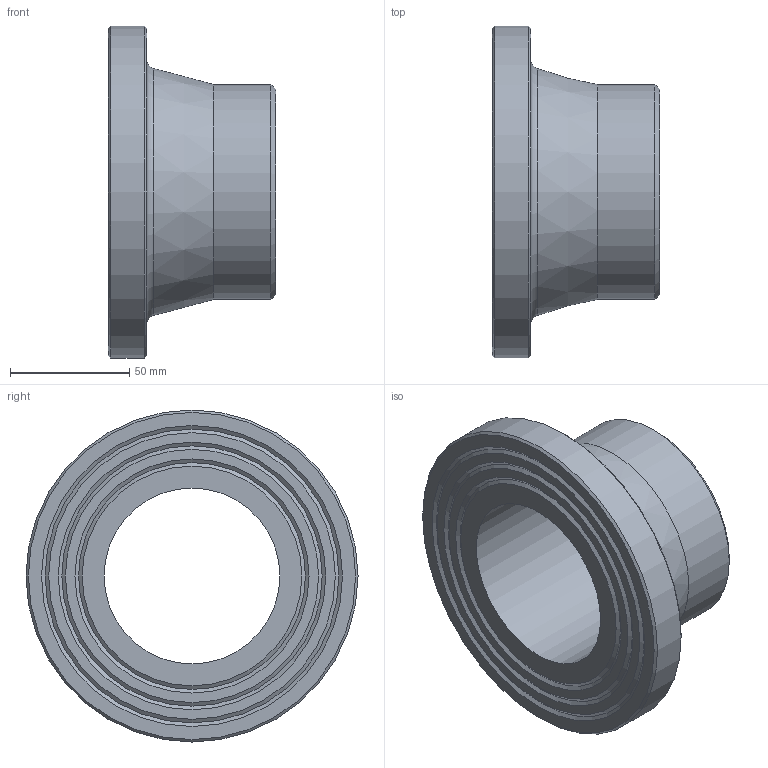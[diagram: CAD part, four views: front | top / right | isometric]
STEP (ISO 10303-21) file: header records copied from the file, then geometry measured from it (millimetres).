
FILE_DESCRIPTION(/* description */ ('Unknown'),/* implementation_level */ '2;1');
FILE_NAME(/* name */ 'CCP090C',/* time_stamp */ '2022-04-04T14:41:40+02:00',/* author */ ('Unknown'),/* organization */ ('Unknown'),/* preprocessor_version */ 'ST-DEVELOPER v18.1',/* originating_system */ 'Solid Edge',/* authorisation */ 'Unknown');
FILE_SCHEMA (('AUTOMOTIVE_DESIGN {1 0 10303 214 3 1 1}'));
Length unit declared in the file: millimetre
Products named in the file (1): CCP090C
Bounding box: 70 x 139 x 139 mm (x, y, z)
Volume: 317766.9 mm3; surface area: 58541.7 mm2
Topology: 1 solids, 1 shells, 20 faces, 35 edges, 21 vertices
Faces by surface type: cone 10, plane 6, cylinder 3, torus 1
Full cylindrical faces by diameter (mm): 73.6 x1, 90 x1, 139 x1
Entity records: 438 total; most frequent: DIRECTION 82, CARTESIAN_POINT 61, AXIS2_PLACEMENT_3D 41, ORIENTED_EDGE 40, EDGE_LOOP 40, FACE_BOUND 40, EDGE_CURVE 20, VERTEX_POINT 20
